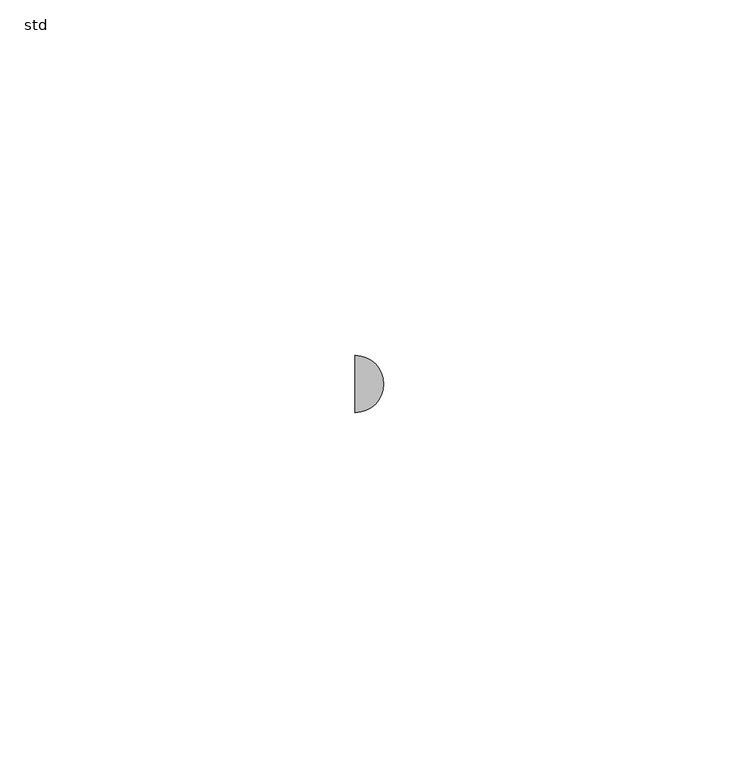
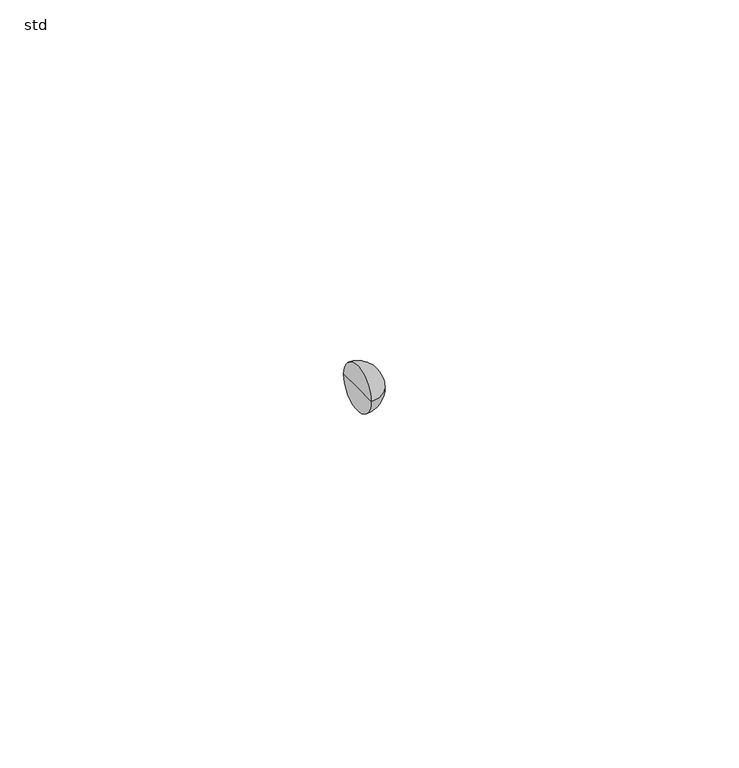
"""IFC4 building model written with IfcOpenShell, lengths in millimetres: pipe fitting geometry, PIF_ST_UN_GM-X multibranch_ACO : std."""

from ifc_helpers import new_model, si_unit, point, frame, origin, place, context, project, spatial, circle_curve, ellipse_curve, trimmed, source, transform, mapped, element, save
from ifc_brep_helpers import plane_surface, revolved_surface, advanced_brep


def std_512bb775(model_context):
    return source(origin(), model_context, "Body", "AdvancedBrep", [
        advanced_brep(
        [(-140.0, 0.0, 0.0), (-140.0, 4.0095617, 0.0), (-140.0, -4.0095617, 0.0), (-135.9904383, 0.0, 0.0)],
        [
            (0, 1),
            (1, 2, circle_curve(frame((-140.0, 0.0, 0.0), z_axis=(-1.0, 0.0, 0.0), x_axis=(0.0, 1.0, 0.0)), 4.0095617)),
            (2, 0),
            (2, 1, circle_curve(frame((-140.0, 0.0, 0.0), z_axis=(-1.0, 0.0, 0.0), x_axis=(0.0, 1.0, 0.0)), 4.0095617)),
            (1, 3, circle_curve(frame((-140.0, 0.0, 0.0), z_axis=(0.0, 0.0, -1.0), x_axis=(1.0, 0.0, 0.0)), 4.0095617)),
            (3, 2, circle_curve(frame((-140.0, 0.0, 0.0), z_axis=(0.0, 0.0, -1.0), x_axis=(1.0, 0.0, 0.0)), 4.0095617)),
        ],
        [
            plane_surface(frame((-140.0, 0.0, 0.0), z_axis=(-1.0, 0.0, 0.0), x_axis=(0.0, 1.0, 0.0))),
            revolved_surface(trimmed(ellipse_curve(frame((-140.0, 0.0, 0.0), z_axis=(0.0, 0.0, 1.0), x_axis=(1.0, 0.0, 0.0)), 4.0095617, 4.0095617), [point((-135.9904383, 0.0, 0.0))], [point((-140.0, 4.0095617, 0.0))], True, "CARTESIAN"), (-140.0, 0.0, 0.0), (-1.0, 0.0, 0.0)),
        ],
        [
            (0, [[1, 2, 3]]),
            (0, [[-3, 4, -1]]),
            (1, [[-2, 5, 6]]),
            (1, [[-4, -6, -5]]),
        ],
    ),
    ])


if __name__ == "__main__":
    model = new_model("IFC4")
    model_context = context("Model", 3, world=origin())
    ifc_project = project(units=[si_unit("LENGTHUNIT", "METRE", prefix="MILLI")], contexts=[model_context])
    site = spatial("IfcSite", under=ifc_project)
    building = spatial("IfcBuilding", under=site)
    placement = place(None, origin())
    std_shape = std_512bb775(model_context)
    element("IfcPipeFitting", 1, ObjectType="PIF_ST_UN_GM-X multibranch_ACO : std", at=placement, inside=building, context=model_context, shape_type="MappedRepresentation", body=[
        mapped(std_shape, transform((0.0, 0.0, 0.0), x_axis=(1.0, 0.0, 0.0), y_axis=(0.0, 1.0, 0.0), z_axis=(0.0, 0.0, 1.0))),
    ])
    save(model, "model.ifc")
